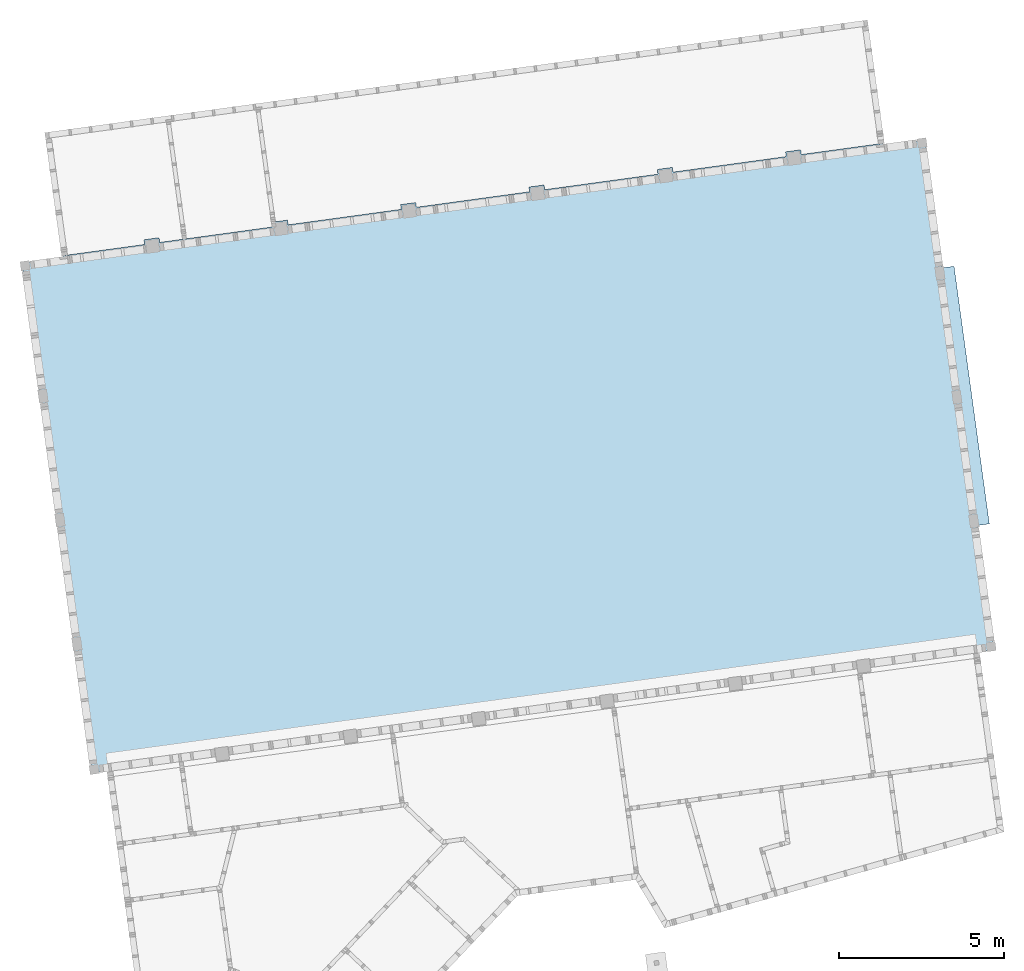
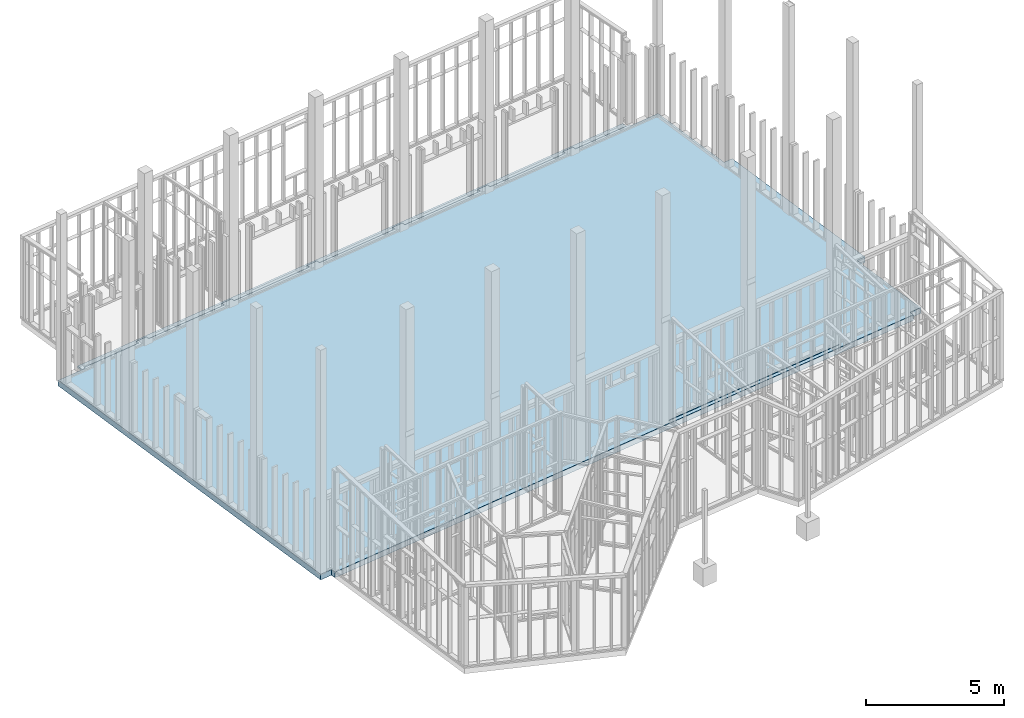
# One storey, part 24 of 24: 1 slab.
"""IFC2X3 building model written with IfcOpenShell, lengths in metres."""

from ifc_helpers import new_model, entity, si_unit, converted_unit, derived_unit, money_unit, direction, frame, origin_with_axes, place, context, subcontext, project, spatial, polyline, outline, extrude, boolean, faceted_brep, material, layer, layer_set, layer_usage, type_object, element, save


model = new_model("IFC2X3")

# Units and contexts
model_context = context("Model", 3, precision=1e-05, world=origin_with_axes(), true_north=direction((0.0, 1.0)))
body_context = subcontext(model_context, "Body", "Model", "MODEL_VIEW")
ifc_project = project(units=[si_unit("LENGTHUNIT", "METRE"), si_unit("AREAUNIT", "SQUARE_METRE"), si_unit("VOLUMEUNIT", "CUBIC_METRE"), converted_unit("PLANEANGLEUNIT", "DEGREE", entity("IfcPlaneAngleMeasure", 0.0174532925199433), si_unit("PLANEANGLEUNIT", "RADIAN"), dimensions=[0, 0, 0, 0, 0, 0, 0]), money_unit("EUR"), converted_unit("TIMEUNIT", "Year", entity("IfcTimeMeasure", 31557600.0), si_unit("TIMEUNIT", "SECOND"), dimensions=[0, 0, 1, 0, 0, 0, 0]), si_unit("MASSUNIT", "GRAM", prefix="KILO"), si_unit("THERMODYNAMICTEMPERATUREUNIT", "DEGREE_CELSIUS"), si_unit("LUMINOUSINTENSITYUNIT", "LUMEN"), si_unit("ENERGYUNIT", "JOULE", prefix="MEGA"), derived_unit("THERMALCONDUCTANCEUNIT", [(si_unit("POWERUNIT", "WATT"), 1), (si_unit("LENGTHUNIT", "METRE"), -1), (si_unit("THERMODYNAMICTEMPERATUREUNIT", "KELVIN"), -1)]), derived_unit("SPECIFICHEATCAPACITYUNIT", [(si_unit("ENERGYUNIT", "JOULE"), 1), (si_unit("MASSUNIT", "GRAM", prefix="KILO"), -1), (si_unit("THERMODYNAMICTEMPERATUREUNIT", "KELVIN"), -1)]), derived_unit("MASSDENSITYUNIT", [(si_unit("MASSUNIT", "GRAM", prefix="KILO"), 1), (si_unit("VOLUMEUNIT", "CUBIC_METRE"), -1)])], contexts=[model_context])

# Site, building, storey
site_placement = place(None, origin_with_axes())
site = spatial("IfcSite", under=ifc_project, at=site_placement, Name="Gelände", CompositionType="ELEMENT")
building_placement = place(site_placement, origin_with_axes())
building = spatial("IfcBuilding", under=site, at=building_placement, Name="Gebäude", CompositionType="ELEMENT")
storey_placement = place(building_placement, origin_with_axes())
storey = spatial("IfcBuildingStorey", under=building, at=storey_placement, Name="EG", CompositionType="ELEMENT", Elevation=0.0)

# Slab
ifc_material = material(Name="Beton, Stahlbeton 25")
ifc_layer = layer(ifc_material, 0.25, ventilated="UNKNOWN")
ifc_layer_set = layer_set([ifc_layer], Name="Beton, Stahlbeton 25 0.25")
ifc_layer_usage = layer_usage(ifc_layer_set, "AXIS3", "NEGATIVE", 0.25)
slab_type = type_object("IfcSlabType", Name="Beton, Stahlbeton 25 250", PredefinedType="FLOOR")
slab_placement = place(storey_placement, frame((85.65642282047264, -135.5529891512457, -0.1680000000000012), z_axis=(0.0, 0.0, 1.0), x_axis=(1.0, 0.0, 0.0)))
element("IfcSlab", 1, at=slab_placement, inside=storey, type_object=slab_type, material=ifc_layer_usage, Name="Decke-005", PredefinedType="FLOOR", context=body_context, shape_type="CSG", body=[
    boolean("DIFFERENCE", extrude(outline(polyline([(0.0, 0.0), (-1.240727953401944, -0.1699529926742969), (0.8665953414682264, -15.55429473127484), (1.356520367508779, -15.48718556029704), (1.384748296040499, -15.69326124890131), (27.6742583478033, -12.09216489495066), (27.64772680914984, -11.89847356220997), (28.13765182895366, -11.83136439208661), (27.62540996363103, -8.091784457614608), (27.99198688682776, -8.041571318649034), (26.92529696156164, -0.2542885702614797), (26.55872003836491, -0.3045017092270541), (26.02863214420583, 3.565361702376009), (24.78790423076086, 3.395408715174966), (24.7230119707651, 3.869149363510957), (-0.06489225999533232, 0.4737406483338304), (0.0, 0.0)]), holes=[polyline([(16.64388976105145, -13.433518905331), (24.40003470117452, -12.37109418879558), (24.40173109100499, -12.38347854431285), (16.64558615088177, -13.44590326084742), (16.64388976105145, -13.433518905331)])]), frame((0.0, 0.0, -0.25), z_axis=(0.0, 0.0, 1.0), x_axis=(1.0, 0.0, 0.0)), (0.0, 0.0, 1.0), 0.25), faceted_brep([(22.28870716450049, 3.263537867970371, 0.0), (22.30816188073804, 3.121510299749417, 0.0), (24.77906070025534, 3.459970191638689, 0.0), (24.7230119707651, 3.869149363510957, 0.0), (-0.06489225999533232, 0.4737406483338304, 0.0), (-0.008843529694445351, 0.0645614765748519, 0.0), (2.462055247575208, 0.4030213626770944, 0.0), (2.442600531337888, 0.5450489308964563, 0.0), (2.898344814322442, 0.6074760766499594, 0.0), (2.917799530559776, 0.4654485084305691, 0.0), (6.340127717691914, 0.9342337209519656, 0.0), (6.320673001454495, 1.076261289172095, 0.0), (6.776417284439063, 1.138688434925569, 0.0), (6.795872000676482, 0.9966608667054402, 0.0), (10.21820018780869, 1.465446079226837, 0.0), (10.19874547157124, 1.607473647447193, 0.0), (10.65448975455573, 1.66990079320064, 0.0), (10.67394447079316, 1.527873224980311, 0.0), (14.09627265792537, 1.996658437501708, 0.0), (14.07681794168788, 2.138686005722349, 0.0), (14.5325622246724, 2.201113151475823, 0.0), (14.55201694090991, 2.059085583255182, 0.0), (17.97434512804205, 2.527870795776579, 0.0), (17.95489041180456, 2.669898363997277, 0.0), (18.4106346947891, 2.732325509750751, 0.0), (18.43008941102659, 2.590297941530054, 0.0), (21.85241759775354, 3.059083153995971, 0.0), (21.83296288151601, 3.201110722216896, 0.0), (22.28870716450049, 3.263537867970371, -0.1720000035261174), (22.30816188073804, 3.121510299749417, -0.1720000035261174), (24.77906070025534, 3.459970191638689, -0.1720000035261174), (24.7230119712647, 3.869149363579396, -0.1720000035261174), (-0.06489226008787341, 0.4737406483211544, -0.1720000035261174), (-0.008843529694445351, 0.0645614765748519, -0.1720000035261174), (2.462055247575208, 0.4030213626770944, -0.1720000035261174), (2.442600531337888, 0.5450489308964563, -0.1720000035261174), (2.898344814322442, 0.6074760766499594, -0.1720000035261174), (2.917799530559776, 0.4654485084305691, -0.1720000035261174), (6.340127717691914, 0.9342337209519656, -0.1720000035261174), (6.320673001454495, 1.076261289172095, -0.1720000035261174), (6.776417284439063, 1.138688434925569, -0.1720000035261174), (6.795872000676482, 0.9966608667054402, -0.1720000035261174), (10.21820018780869, 1.465446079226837, -0.1720000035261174), (10.19874547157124, 1.607473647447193, -0.1720000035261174), (10.65448975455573, 1.66990079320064, -0.1720000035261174), (10.67394447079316, 1.527873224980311, -0.1720000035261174), (14.09627265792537, 1.996658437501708, -0.1720000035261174), (14.07681794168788, 2.138686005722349, -0.1720000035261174), (14.5325622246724, 2.201113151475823, -0.1720000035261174), (14.55201694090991, 2.059085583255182, -0.1720000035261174), (17.97434512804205, 2.527870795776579, -0.1720000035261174), (17.95489041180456, 2.669898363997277, -0.1720000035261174), (18.4106346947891, 2.732325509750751, -0.1720000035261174), (18.43008941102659, 2.590297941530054, -0.1720000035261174), (21.85241759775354, 3.059083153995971, -0.1720000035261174), (21.83296288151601, 3.201110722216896, -0.1720000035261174)], [[[0, 1, 2, 3, 4, 5, 6, 7, 8, 9, 10, 11, 12, 13, 14, 15, 16, 17, 18, 19, 20, 21, 22, 23, 24, 25, 26, 27]], [[1, 0, 28, 29]], [[30, 2, 1, 29]], [[30, 31, 3, 2]], [[31, 32, 4, 3]], [[33, 5, 4, 32]], [[6, 5, 33, 34]], [[7, 6, 34, 35]], [[8, 7, 35, 36]], [[9, 8, 36, 37]], [[10, 9, 37, 38]], [[11, 10, 38, 39]], [[12, 11, 39, 40]], [[13, 12, 40, 41]], [[14, 13, 41, 42]], [[15, 14, 42, 43]], [[16, 15, 43, 44]], [[17, 16, 44, 45]], [[18, 17, 45, 46]], [[19, 18, 46, 47]], [[20, 19, 47, 48]], [[21, 20, 48, 49]], [[22, 21, 49, 50]], [[23, 22, 50, 51]], [[24, 23, 51, 52]], [[25, 24, 52, 53]], [[26, 25, 53, 54]], [[27, 26, 54, 55]], [[0, 27, 55, 28]], [[31, 30, 29, 28, 55, 54, 53, 52, 51, 50, 49, 48, 47, 46, 45, 44, 43, 42, 41, 40, 39, 38, 37, 36, 35, 34, 33, 32]]])),
])

save(model, "model.ifc")
